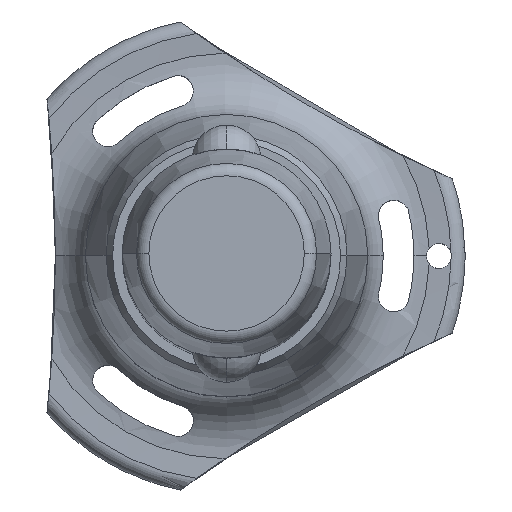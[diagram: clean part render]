
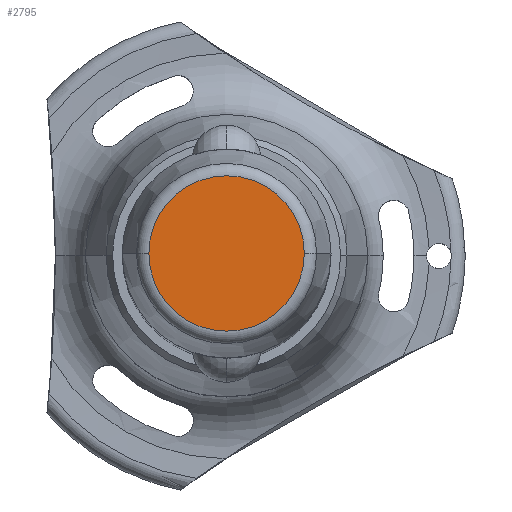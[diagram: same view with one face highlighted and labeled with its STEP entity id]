
A CAD part, top view. The second image highlights one B-rep face of the part: STEP entity #2795.
In plain terms, the highlighted planar face has unit normal (0, 0, 1).
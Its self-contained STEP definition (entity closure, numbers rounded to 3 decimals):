
#78 = CARTESIAN_POINT ( 'NONE',  ( 0., 0., 22. ) ) ;
#82 = EDGE_CURVE ( 'NONE', #99, #1289, #2194, .T. ) ;
#99 = VERTEX_POINT ( 'NONE', #2357 ) ;
#269 = PLANE ( 'NONE',  #2065 ) ;
#711 = ORIENTED_EDGE ( 'NONE', *, *, #82, .T. ) ;
#853 = CIRCLE ( 'NONE', #1872, 9.302 ) ;
#936 = AXIS2_PLACEMENT_3D ( 'NONE', #2171, #2385, #1297 ) ;
#1057 = CARTESIAN_POINT ( 'NONE',  ( -9.302, 0., 22. ) ) ;
#1124 = DIRECTION ( 'NONE',  ( 1., 0., 0. ) ) ;
#1289 = VERTEX_POINT ( 'NONE', #1057 ) ;
#1297 = DIRECTION ( 'NONE',  ( 1., 0., 0. ) ) ;
#1339 = FACE_OUTER_BOUND ( 'NONE', #1602, .T. ) ;
#1561 = CARTESIAN_POINT ( 'NONE',  ( 0., 0., 22. ) ) ;
#1602 = EDGE_LOOP ( 'NONE', ( #711, #2462 ) ) ;
#1616 = DIRECTION ( 'NONE',  ( 0., 0., 1. ) ) ;
#1775 = DIRECTION ( 'NONE',  ( 1., 0., 0. ) ) ;
#1872 = AXIS2_PLACEMENT_3D ( 'NONE', #78, #1616, #1775 ) ;
#1977 = EDGE_CURVE ( 'NONE', #1289, #99, #853, .T. ) ;
#2065 = AXIS2_PLACEMENT_3D ( 'NONE', #1561, #2451, #1124 ) ;
#2171 = CARTESIAN_POINT ( 'NONE',  ( 0., 0., 22. ) ) ;
#2194 = CIRCLE ( 'NONE', #936, 9.302 ) ;
#2357 = CARTESIAN_POINT ( 'NONE',  ( 9.302, 0., 22. ) ) ;
#2385 = DIRECTION ( 'NONE',  ( 0., 0., 1. ) ) ;
#2451 = DIRECTION ( 'NONE',  ( 0., 0., 1. ) ) ;
#2462 = ORIENTED_EDGE ( 'NONE', *, *, #1977, .T. ) ;
#2795 = ADVANCED_FACE ( 'NONE', ( #1339 ), #269, .T. ) ;
